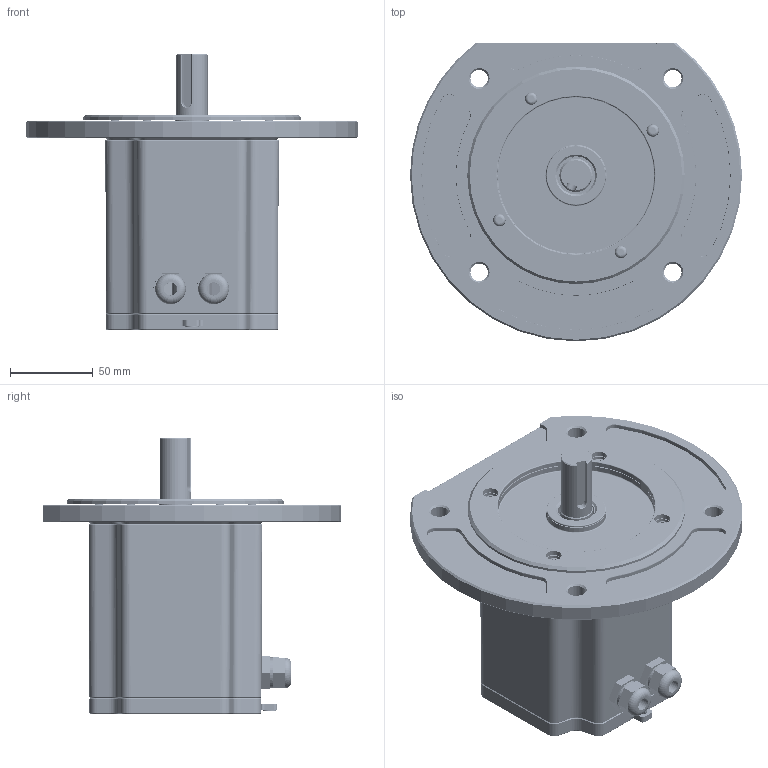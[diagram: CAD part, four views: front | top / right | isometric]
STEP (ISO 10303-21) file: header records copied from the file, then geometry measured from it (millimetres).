
FILE_DESCRIPTION (( 'STEP AP214' ), '1' );
FILE_NAME ('K20¡àK750N¡à.STEP', '2025-01-23T08:42:07', ( 'frvao@naver.com' ), ( '' ), 'SwSTEP 2.0', 'SolidWorks 2022', '' );
FILE_SCHEMA (( 'AUTOMOTIVE_DESIGN' ));
Length unit declared in the file: millimetre
Products named in the file (30): 400W __________ B (______)(160920).ipt.STEP; HALL IC HOLDER.ipt.STEP; ______.iam.STEP; SHAFT; S-CORE.ipt.STEP; AS 1420 - 1973 - M4 x 8.ipt.STEP; CABLE GRAND.ipt.STEP; HALL PCB-RE01(161226).ipt.STEP; PCB ASS''''Y.iam.STEP; BS 290 SKF - SKF 6304-2Z.ipt.STEP; SHAFT.STEP; PCB PIN.ipt.STEP; K20¡àK750N¡à; R-ASS''''Y.iam.STEP; KGM_ICE_FRONT COVER pi200; だお33; REAR-COVER.ipt.STEP; K10¡àK750N¡à.STEP; HALL IC.ipt.STEP; S-CORE ASS''''Y.iam.STEP; M-CASE.ipt.STEP; 400W __________A (______)(160913).ipt.STEP; CORE ASS''''Y.iam.STEP; MAGNET.ipt.STEP; BS 290 SKF - SKF 6203-2Z.ipt.STEP; FRONT-COVER.ipt.STEP; SHAFT.ipt.STEP
Assembly tree (193 placements, depth 6):
  K20¡àK750N¡à
    K10¡àK750N¡à.STEP
      ______.iam.STEP
        R-ASS''''Y.iam.STEP
          SHAFT.ipt.STEP
          MAGNET.ipt.STEP
          BS 290 SKF - SKF 6304-2Z.ipt.STEP
          BS 290 SKF - SKF 6203-2Z.ipt.STEP
        CORE ASS''''Y.iam.STEP
          S-CORE ASS''''Y.iam.STEP
            S-CORE.ipt.STEP  x143
          400W __________A (______)(160913).ipt.STEP
          400W __________ B (______)(160920).ipt.STEP
          PCB PIN.ipt.STEP  x12
        PCB ASS''''Y.iam.STEP
          HALL PCB-RE01(161226).ipt.STEP
          HALL IC HOLDER.ipt.STEP  x3
          HALL IC.ipt.STEP  x3
        M-CASE.ipt.STEP
        FRONT-COVER.ipt.STEP
        CABLE GRAND.ipt.STEP  x2
        REAR-COVER.ipt.STEP
        AS 1420 - 1973 - M4 x 8.ipt.STEP
        AS 1420 - 1973 - M4 x 8.ipt.STEP
        AS 1420 - 1973 - M4 x 8.ipt.STEP
        AS 1420 - 1973 - M4 x 8.ipt.STEP  x4
      SHAFT.STEP
    KGM_ICE_FRONT COVER pi200
    SHAFT
    だお33  x4
Bounding box: 200 x 180 x 166 mm (x, y, z)
Volume: 1098465 mm3; surface area: 1487826.4 mm2
Topology: 191 solids, 191 shells, 36014 faces, 105521 edges, 69965 vertices
Faces by surface type: plane 18022, cylinder 17069, bspline 325, torus 304, cone 220, sphere 74
Entity records: 177677 total; most frequent: CARTESIAN_POINT 58654, ORIENTED_EDGE 24910, DIRECTION 24032, EDGE_CURVE 12455, AXIS2_PLACEMENT_3D 8481, VERTEX_POINT 8016, VECTOR 7070, LINE 7070
